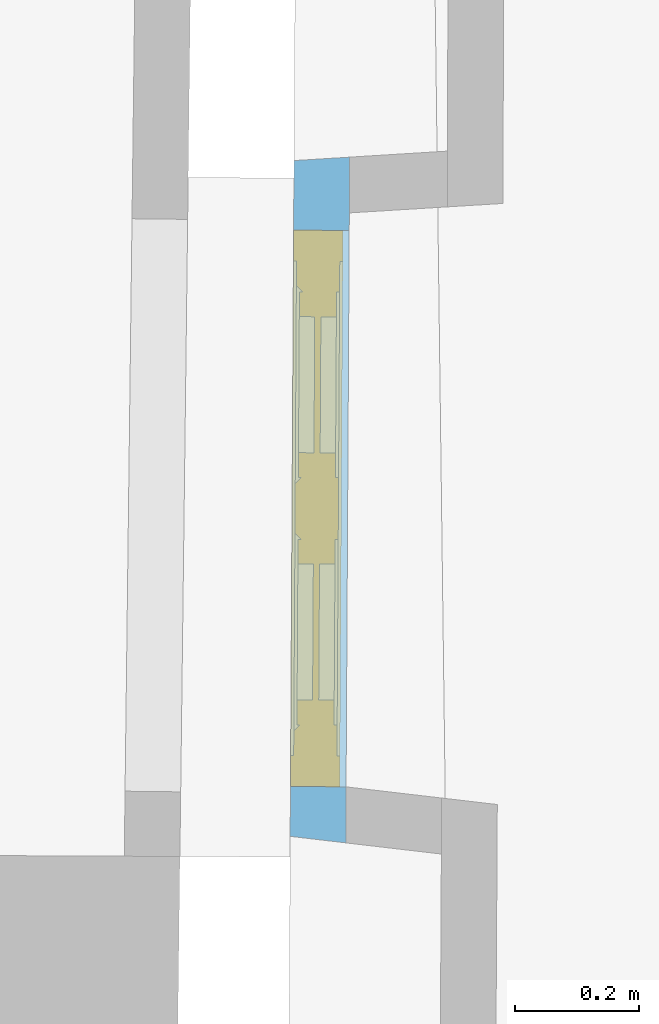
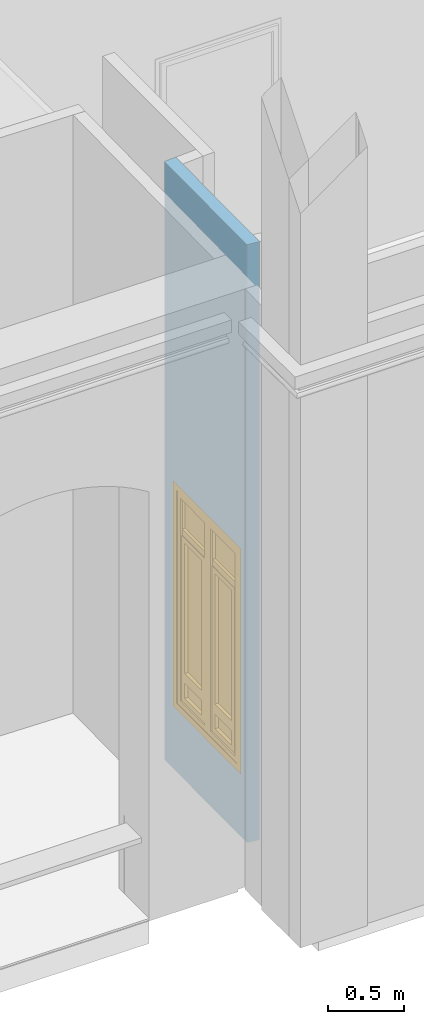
# One storey, part 53 of 97: 1 window, 1 opening, plus 1 element that does not belong to this part.
"""IFC2X3 building model written with IfcOpenShell, lengths in centimetres."""

import ifcopenshell
import ifcopenshell.guid

model = None  # the IFC model being written
_history = None  # IfcOwnerHistory: only IFC2X3 demands one
_inside = {}  # id of a spatial element -> (the spatial element, [elements in it])
_under = {}  # id of a project, library or spatial element -> (it, [spatial elements below it])
_declared = {}  # id of a project -> (the project, [libraries it declares])
_typed = {}  # id of a type object -> (the type object, [elements of that type])
_made_of = {}  # id of a material, layer set ... -> (it, [elements and type objects made of it])


def new_model(schema):
    """Start an empty IFC model of exactly this schema.

    Asked for "IFC4X3", IfcOpenShell would pick the latest addendum, in which some entities
    have other attributes; the version numbers below select the first issue.
    IFC2X3 requires an IfcOwnerHistory on every rooted entity: one is made here for all.
    """
    global model, _history
    if schema == "IFC4X3":
        model = ifcopenshell.file(schema_version=(4, 3, 0, 0))
    else:
        model = ifcopenshell.file(schema=schema)
    _inside.clear()
    _under.clear()
    _declared.clear()
    _typed.clear()
    _made_of.clear()
    _history = None
    if model.schema == "IFC2X3":
        org = make("IfcOrganization", Name="unknown")
        user = make(
            "IfcPersonAndOrganization",
            ThePerson=make("IfcPerson", FamilyName="unknown"),
            TheOrganization=org,
        )
        app = make(
            "IfcApplication",
            ApplicationDeveloper=org,
            Version="unknown",
            ApplicationFullName="unknown",
            ApplicationIdentifier="unknown",
        )
        _history = make(
            "IfcOwnerHistory",
            OwningUser=user,
            OwningApplication=app,
            ChangeAction="ADDED",
            CreationDate=0,
        )
    return model


def make(cls, **values):
    """One entity of the class cls with the attributes given. An attribute that is None is left unset."""
    return model.create_entity(
        cls, **{name: value for name, value in values.items() if value is not None}
    )


def entity(cls, *values):
    """Any entity or typed value of the class cls, its attributes in the order of the schema. None: left unset."""
    e = model.create_entity(cls)
    for i, value in enumerate(values):
        if value is not None:
            e[i] = value
    return e


def rooted(cls, **values):
    """An entity with a GlobalId (a new one), such as an element, a storey or a relation."""
    return make(cls, GlobalId=ifcopenshell.guid.new(), OwnerHistory=_history, **values)


def si_unit(unit_type, name, prefix=None):
    """IfcSIUnit, for example si_unit("LENGTHUNIT", "METRE", prefix="MILLI")."""
    return make("IfcSIUnit", UnitType=unit_type, Prefix=prefix, Name=name)


def converted_unit(unit_type, name, factor, base, dimensions=None, offset=None):
    """IfcConversionBasedUnit, such as the inch: factor (a typed value) times the base unit."""
    return make(
        "IfcConversionBasedUnit"
        if offset is None
        else "IfcConversionBasedUnitWithOffset",
        ConversionOffset=offset,
        Dimensions=None
        if dimensions is None
        else entity("IfcDimensionalExponents", *dimensions),
        UnitType=unit_type,
        Name=name,
        ConversionFactor=make(
            "IfcMeasureWithUnit", ValueComponent=factor, UnitComponent=base
        ),
    )


def assignment(units):
    """IfcUnitAssignment: the units of a project."""
    return None if units is None else make("IfcUnitAssignment", Units=units)


def point(xyz):
    """IfcCartesianPoint."""
    return None if xyz is None else make("IfcCartesianPoint", Coordinates=xyz)


def direction(xyz):
    """IfcDirection."""
    return None if xyz is None else make("IfcDirection", DirectionRatios=xyz)


def frame(location, z_axis=None, x_axis=None):
    """IfcAxis2Placement3D, a coordinate frame: its origin and axes. An axis left out is left unset."""
    return make(
        "IfcAxis2Placement3D",
        Location=point(location),
        Axis=direction(z_axis),
        RefDirection=direction(x_axis),
    )


def origin():
    """The frame at (0, 0, 0) with its axes left unset."""
    return frame((0.0, 0.0, 0.0))


def origin_with_axes():
    """The frame at (0, 0, 0) with the z axis (0, 0, 1) and the x axis (1, 0, 0) written out."""
    return frame((0.0, 0.0, 0.0), z_axis=(0.0, 0.0, 1.0), x_axis=(1.0, 0.0, 0.0))


def place(relative_to, where):
    """IfcLocalPlacement: puts the frame where relative to a parent placement (None: the world)."""
    return make(
        "IfcLocalPlacement", PlacementRelTo=relative_to, RelativePlacement=where
    )


def context(
    kind, dimensions, precision=None, world=None, true_north=None, identifier=None
):
    """IfcGeometricRepresentationContext, for example the 3D "Model" context."""
    return make(
        "IfcGeometricRepresentationContext",
        ContextIdentifier=identifier,
        ContextType=kind,
        CoordinateSpaceDimension=dimensions,
        Precision=precision,
        WorldCoordinateSystem=world,
        TrueNorth=true_north,
    )


def subcontext(parent, identifier, kind, view, scale=None):
    """IfcGeometricRepresentationSubContext, for example "Body" below "Model"."""
    return make(
        "IfcGeometricRepresentationSubContext",
        ContextIdentifier=identifier,
        ContextType=kind,
        ParentContext=parent,
        TargetScale=scale,
        TargetView=view,
    )


def project(units=None, contexts=None):
    """IfcProject with its units and contexts."""
    return rooted(
        "IfcProject",
        Name="project",
        RepresentationContexts=contexts,
        UnitsInContext=assignment(units),
    )


def spatial(cls, under=None, at=None, **own):
    """A site, building, storey or space (cls), placed at a placement, below another one or the project."""
    s = rooted(cls, ObjectPlacement=at, **own)
    if under is not None:
        _under.setdefault(under.id(), (under, []))[1].append(s)
    return s


def polyline(points):
    """IfcPolyline through the points."""
    return make("IfcPolyline", Points=[point(p) for p in points])


def outline(outer, holes=None, kind="AREA"):
    """IfcArbitraryClosedProfileDef: a profile drawn as a closed curve; with holes, ...WithVoids."""
    if holes is None:
        return make("IfcArbitraryClosedProfileDef", ProfileType=kind, OuterCurve=outer)
    return make(
        "IfcArbitraryProfileDefWithVoids",
        ProfileType=kind,
        OuterCurve=outer,
        InnerCurves=holes,
    )


def extrude(swept, where, along, depth):
    """IfcExtrudedAreaSolid: the profile swept, set in the frame where, extruded along a direction by depth."""
    return make(
        "IfcExtrudedAreaSolid",
        SweptArea=swept,
        Position=where,
        ExtrudedDirection=direction(along),
        Depth=depth,
    )


def faces_of(points, faces, orient=None, outer=None):
    """IfcFace entities. A face is a list of loops; a loop is a list of indices into points, from 0.

    orient and outer hold one flag for each loop. By default every Orientation is true, the
    first loop of a face is its IfcFaceOuterBound and the others are IfcFaceBound.
    """
    made = []
    for i, loops in enumerate(faces):
        bounds = []
        for j, loop in enumerate(loops):
            is_outer = j == 0 if outer is None else outer[i][j]
            bounds.append(
                make(
                    "IfcFaceOuterBound" if is_outer else "IfcFaceBound",
                    Bound=make("IfcPolyLoop", Polygon=[points[k] for k in loop]),
                    Orientation=True if orient is None else orient[i][j],
                )
            )
        made.append(make("IfcFace", Bounds=bounds))
    return made


def faceted_brep(points, faces, orient=None, outer=None, voids=None):
    """IfcFacetedBrep: a solid bounded by flat faces; with voids (closed shells), ...WithVoids."""
    shared = [point(p) for p in points]
    hull = make("IfcClosedShell", CfsFaces=faces_of(shared, faces, orient, outer))
    if voids is None:
        return make("IfcFacetedBrep", Outer=hull)
    return make(
        "IfcFacetedBrepWithVoids",
        Outer=hull,
        Voids=[
            make(cls, CfsFaces=faces_of(shared, fs, o, b)) for cls, fs, o, b in voids
        ],
    )


def shape(context_of_items, identifier, shape_type, items):
    """IfcShapeRepresentation: the items that make up one representation, for example the "Body"."""
    return make(
        "IfcShapeRepresentation",
        ContextOfItems=context_of_items,
        RepresentationIdentifier=identifier,
        RepresentationType=shape_type,
        Items=items,
    )


def source(mapping_origin, context_of_items, identifier, shape_type, items):
    """IfcRepresentationMap: a shape defined once, which mapped items show again and again."""
    return make(
        "IfcRepresentationMap",
        MappingOrigin=mapping_origin,
        MappedRepresentation=shape(context_of_items, identifier, shape_type, items),
    )


def transform(
    local_origin,
    x_axis=None,
    y_axis=None,
    z_axis=None,
    scale=None,
    scale2=None,
    scale3=None,
    uniform=True,
):
    """IfcCartesianTransformationOperator3D, or its non-uniform kind. x_axis, y_axis, z_axis: its Axis1, 2, 3."""
    if uniform:
        return make(
            "IfcCartesianTransformationOperator3D",
            Axis1=direction(x_axis),
            Axis2=direction(y_axis),
            LocalOrigin=point(local_origin),
            Scale=scale,
            Axis3=direction(z_axis),
        )
    return make(
        "IfcCartesianTransformationOperator3DnonUniform",
        Axis1=direction(x_axis),
        Axis2=direction(y_axis),
        LocalOrigin=point(local_origin),
        Scale=scale,
        Axis3=direction(z_axis),
        Scale2=scale2,
        Scale3=scale3,
    )


def mapped(mapping_source, mapping_target):
    """IfcMappedItem: shows the shape of a source again, moved by a transform."""
    return make(
        "IfcMappedItem", MappingSource=mapping_source, MappingTarget=mapping_target
    )


def material(Name=None, Category=None):
    """IfcMaterial."""
    return make("IfcMaterial", Name=Name, Category=Category)


def material_list(materials):
    """IfcMaterialList."""
    return make("IfcMaterialList", Materials=materials)


def layer(
    of_material, thickness, ventilated=None, Name=None, Category=None, Priority=None
):
    """IfcMaterialLayer: one layer of a wall or slab, of a material (None: an air gap)."""
    return make(
        "IfcMaterialLayer",
        Material=of_material,
        LayerThickness=thickness,
        IsVentilated=ventilated,
        Name=Name,
        Category=Category,
        Priority=Priority,
    )


def layer_set(layers, Name=None):
    """IfcMaterialLayerSet."""
    return make("IfcMaterialLayerSet", MaterialLayers=layers, LayerSetName=Name)


def layer_usage(for_layer_set, set_direction, sense, offset, extent=None):
    """IfcMaterialLayerSetUsage: how a layer set lies in its element."""
    return make(
        "IfcMaterialLayerSetUsage",
        ForLayerSet=for_layer_set,
        LayerSetDirection=set_direction,
        DirectionSense=sense,
        OffsetFromReferenceLine=offset,
        ReferenceExtent=extent,
    )


def made_of(thing, what):
    """Note that an element or type object is made of a material, layer set ...; save() writes the relation."""
    if what is not None:
        _made_of.setdefault(what.id(), (what, []))[1].append(thing)
    return thing


def type_object(cls, material=None, **own):
    """A type object (cls), such as IfcWallType, which elements share."""
    return made_of(rooted(cls, **own), material)


def element(
    cls,
    number,
    at=None,
    inside=None,
    cuts=None,
    type_object=None,
    material=None,
    context=None,
    identifier="Body",
    shape_type=None,
    held_by="IfcProductDefinitionShape",
    body=None,
    shapes=None,
    **own,
):
    """One element of the class cls, such as IfcWall. Its Tag is "e" and its number.

    at: its placement. inside: the storey or other place that contains it. cuts: it is an
    opening in that element (IfcRelVoidsElement). A single representation is given by context,
    identifier, shape_type and body (its items); several are given by shapes. held_by: the class
    of the entity that holds the representations. save() writes the other relations.
    """
    e = rooted(cls, Tag="e%d" % number, ObjectPlacement=at, **own)
    if body is not None:
        shapes = [shape(context, identifier, shape_type, body)]
    if shapes is not None:
        e.Representation = make(held_by, Representations=shapes)
    if inside is not None:
        _inside.setdefault(inside.id(), (inside, []))[1].append(e)
    if cuts is not None:
        rooted(
            "IfcRelVoidsElement", RelatingBuildingElement=cuts, RelatedOpeningElement=e
        )
    if type_object is not None:
        _typed.setdefault(type_object.id(), (type_object, []))[1].append(e)
    return made_of(e, material)


def fill(opening, filler):
    """IfcRelFillsElement: the door or window that sits in an opening."""
    return rooted(
        "IfcRelFillsElement",
        RelatingOpeningElement=opening,
        RelatedBuildingElement=filler,
    )


def aggregate(whole, parts):
    """IfcRelAggregates: a whole, such as a stair, and the parts it consists of."""
    return rooted("IfcRelAggregates", RelatingObject=whole, RelatedObjects=parts)


def save(model, path):
    """Write the relations noted so far, then the file.

    IfcRelAggregates (storeys below a building ...), IfcRelContainedInSpatialStructure (elements
    in a storey), IfcRelDefinesByType, IfcRelAssociatesMaterial and IfcRelDeclares: one each for
    every whole, place, type object, material and project.
    """
    for whole, parts in _under.values():
        aggregate(whole, parts)
    for where, things in _inside.values():
        rooted(
            "IfcRelContainedInSpatialStructure",
            RelatedElements=things,
            RelatingStructure=where,
        )
    for kind, things in _typed.values():
        rooted("IfcRelDefinesByType", RelatedObjects=things, RelatingType=kind)
    for what, things in _made_of.values():
        rooted("IfcRelAssociatesMaterial", RelatedObjects=things, RelatingMaterial=what)
    for by, libraries in _declared.values():
        rooted("IfcRelDeclares", RelatingContext=by, RelatedDefinitions=libraries)
    model.write(path)


model = new_model("IFC2X3")

# Units and contexts
model_context = context("Model", 3, precision=0.0001, world=origin(), true_north=direction((0.225632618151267, 0.974212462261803, 0.0)))
body_context = subcontext(model_context, "Body", "Model", "MODEL_VIEW")
footprint_context = subcontext(model_context, "FootPrint", "Model", "MODEL_VIEW")
profile_context = subcontext(model_context, "Profile", "Model", "MODEL_VIEW")
ifc_project = project(units=[si_unit("LENGTHUNIT", "METRE", prefix="CENTI"), si_unit("AREAUNIT", "SQUARE_METRE", prefix="CENTI"), si_unit("VOLUMEUNIT", "CUBIC_METRE", prefix="CENTI"), converted_unit("PLANEANGLEUNIT", "DEGREE", entity("IfcRatioMeasure", 0.0174532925), si_unit("PLANEANGLEUNIT", "RADIAN"), dimensions=[0, 0, 0, 0, 0, 0, 0])], contexts=[model_context])

# Site, building, storey
site_placement = place(None, origin_with_axes())
site = spatial("IfcSite", under=ifc_project, at=site_placement, Name="Default Site", CompositionType="ELEMENT")
building_placement = place(site_placement, origin_with_axes())
building = spatial("IfcBuilding", under=site, at=building_placement, Name="Default Building", CompositionType="ELEMENT")
storey_placement = place(building_placement, origin_with_axes())
storey = spatial("IfcBuildingStorey", under=building, at=storey_placement, Name="Rez-de-chaussée", CompositionType="ELEMENT", Elevation=0.0)

# Wall, opening, window
ifc_material_1 = material(Name="<aucun>")
ifc_layer = layer(ifc_material_1, 9.0)
ifc_layer_set = layer_set([ifc_layer], Name="default")
ifc_layer_usage = layer_usage(ifc_layer_set, "AXIS2", "POSITIVE", -4.5)
wall_type = type_object("IfcWallType", Name="default 90", PredefinedType="NOTDEFINED", material=ifc_layer_set)
wall_placement = place(storey_placement, frame((271.748422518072, -926.947135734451, 0.0128503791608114), z_axis=(0.0, 0.0, 1.0), x_axis=(0.00566162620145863, 0.999983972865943, 0.0)))
wall = element("IfcWallStandardCase", 1, at=wall_placement, inside=storey, type_object=wall_type, material=ifc_layer_usage, Name="Enveloppe 3133", context=body_context, shape_type="SweptSolid", body=[
    extrude(outline(polyline([(-4.02747527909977, 4.49999999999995), (-5.02796382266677, -4.50000000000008), (105.876194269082, -4.49999999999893), (105.270244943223, 4.50000000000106), (-4.02747527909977, 4.49999999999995)])), frame((0.0, 0.0, 2.71050543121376e-18), z_axis=(0.0, 0.0, 1.0), x_axis=(1.0, 0.0, 0.0)), (0.0, 0.0, 1.0), 477.795358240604),
])
opening_placement = place(wall_placement, frame((4.02747527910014, 0.0, 49.9871496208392), z_axis=(0.0, 0.0, 1.0), x_axis=(-1.0, -1.00162933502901e-14, 0.0)))
cartesian_point_1 = entity("IfcCartesianPoint", [0.0, -4.44089209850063e-14, 180.0])
cartesian_point_2 = entity("IfcCartesianPoint", [-90.0, -4.49999999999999])
opening = element("IfcOpeningElement", 2, at=opening_placement, cuts=wall, Name="4294966456_11", ObjectType="Opening", shapes=[
    shape(body_context, "Body", "SweptSolid", [extrude(outline(polyline([(1.77635683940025e-13, 180.0), (1.77635683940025e-13, 0.0), (90.0, 0.0), (90.0, 180.0), (1.77635683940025e-13, 180.0)])), frame((0.0, -14.5, 0.0), z_axis=(0.0, 1.0, 0.0), x_axis=(-1.0, 0.0, 0.0)), (0.0, 0.0, 1.0), 29.0)]),
    shape(profile_context, "Profile", "GeometricCurveSet", [entity("IfcGeometricCurveSet", [entity("IfcPolyline", [cartesian_point_1, entity("IfcCartesianPoint", [0.0, -4.44089209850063e-14, 0.0]), entity("IfcCartesianPoint", [-89.9999999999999, -4.44089209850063e-14, 0.0]), entity("IfcCartesianPoint", [-89.9999999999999, -4.44089209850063e-14, 180.0]), cartesian_point_1])])]),
    shape(footprint_context, "FootPrint", "GeometricCurveSet", [entity("IfcGeometricCurveSet", [entity("IfcPolyline", [cartesian_point_2, entity("IfcCartesianPoint", [-1.77635683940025e-13, -4.50000000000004]), entity("IfcCartesianPoint", [0.0, 4.4999999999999]), entity("IfcCartesianPoint", [-90.0, 4.49999999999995]), cartesian_point_2])])]),
])
ifc_material_2 = material(Name="Transparent")
ifc_material_3 = material(Name="Noyer 01")
ifc_material_4 = material(Name="Blanc trafic")
ifc_material_5 = material(Name="Aluminium satiné")
ifc_material_list = material_list([ifc_material_2, ifc_material_3, ifc_material_4, ifc_material_5])
window_style = type_object("IfcWindowStyle", Name="FN[R] 2VB[2V] MM", ConstructionType="NOTDEFINED", OperationType="NOTDEFINED", ParameterTakesPrecedence=False, Sizeable=False, material=ifc_material_list)
shared_shape = source(origin_with_axes(), body_context, "Body", "Brep", [
    faceted_brep([(-40.0000005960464, 175.0, -3.99999991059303), (-40.0000005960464, 175.0, 3.99999991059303), (-40.0000005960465, 5.00000007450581, 3.99999991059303), (-40.0000005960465, 5.00000007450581, -3.99999991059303), (-44.9999988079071, 179.999995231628, 3.99999991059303), (-44.9999988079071, 0.0, 3.99999991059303), (-40.0000005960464, 5.00000007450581, 3.99999991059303), (-44.9999988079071, 179.999995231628, -3.99999991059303), (-44.9999988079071, 6.84775123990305e-31, -3.99999991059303), (-44.9999988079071, 6.84775123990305e-31, 3.99999991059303), (-40.0000005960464, 5.00000007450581, -3.99999991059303), (-44.9999988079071, 0.0, -3.99999991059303), (40.0000005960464, 5.0000000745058, 3.99999991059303), (40.0000005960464, 5.0000000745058, -3.99999991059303), (44.9999988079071, 0.0, 3.99999991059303), (40.0000005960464, 5.00000007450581, 3.99999991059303), (44.9999988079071, 0.0, -3.99999991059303), (40.0000005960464, 5.00000007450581, -3.99999991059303), (40.0000005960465, 175.0, 3.99999991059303), (40.0000005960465, 175.0, -3.99999991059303), (44.9999988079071, 179.999995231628, 3.99999991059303), (40.0000005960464, 175.0, 3.99999991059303), (44.9999988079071, 179.999995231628, -3.99999991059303), (40.0000005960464, 175.0, -3.99999991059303)], [[[0, 1, 2, 3]], [[1, 4, 5, 6]], [[4, 7, 8, 9]], [[7, 0, 10, 11]], [[10, 6, 12, 13]], [[6, 5, 14, 15]], [[5, 11, 16, 14]], [[11, 10, 17, 16]], [[17, 15, 18, 19]], [[15, 14, 20, 21]], [[14, 16, 22, 20]], [[16, 17, 23, 22]], [[23, 21, 1, 0]], [[21, 20, 4, 1]], [[20, 22, 7, 4]], [[22, 23, 0, 7]]]),
    faceted_brep([(-36.0000014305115, 171.000003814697, -3.50000001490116), (-35.0000004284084, 170.000004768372, -2.49999901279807), (-35.0000004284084, 10.0000001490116, -2.49999901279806), (-36.0000014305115, 9.00000035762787, -3.50000001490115), (-34.9999994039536, 170.000004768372, -2.5000000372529), (-34.9999994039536, 170.000004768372, 3.50000001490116), (-34.9999994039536, 10.0000001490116, 3.50000001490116), (-34.9999994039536, 10.0000001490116, -2.5000000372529), (-40.0000005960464, 175.0, 3.50000001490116), (-40.0000005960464, 5.00000007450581, 3.50000001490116), (-40.0000005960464, 175.0, -3.50000001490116), (-40.0000005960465, 5.00000007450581, -3.50000001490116), (-40.0000005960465, 5.00000007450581, 3.50000001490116), (-36.0000014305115, 9.00000035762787, -3.50000001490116), (-40.0000005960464, 5.00000007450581, -3.50000001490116), (-34.9999994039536, 10.0000002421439, -2.50000013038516), (-5.00000007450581, 10.0000002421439, -2.50000013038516), (-3.99999991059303, 9.00000035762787, -3.50000001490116), (-5.00000007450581, 10.0000001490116, 3.50000001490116), (-5.00000007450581, 10.0000001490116, -2.5000000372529), (5.55111512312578e-15, 5.00000007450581, 3.50000001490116), (5.55111512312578e-15, 5.00000007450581, -3.50000001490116), (-4.99999998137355, 10.0000001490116, -2.49999994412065), (-4.99999998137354, 170.000004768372, -2.49999994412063), (-3.99999991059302, 171.000003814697, -3.50000001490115), (-5.00000007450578, 170.000004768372, 3.50000001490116), (-5.00000007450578, 170.000004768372, -2.5000000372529), (1.66533453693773e-14, 175.0, 3.50000001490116), (-5.00000007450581, 170.000004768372, 3.50000001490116), (1.66533458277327e-14, 175.0, -3.50000001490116), (1.66533458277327e-14, 175.0, 3.50000001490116), (-3.99999991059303, 171.000003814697, -3.50000001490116), (1.66533453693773e-14, 175.0, -3.50000001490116), (-5.00000007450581, 170.00000430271, -2.50000050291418), (-34.9999994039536, 170.00000430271, -2.50000050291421), (-36.0000014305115, 171.000003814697, -3.50000001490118), (-5.00000007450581, 170.000004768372, -2.5000000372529)], [[[0, 1, 2, 3]], [[4, 5, 6, 7]], [[5, 8, 9, 6]], [[8, 10, 11, 12]], [[10, 0, 13, 14]], [[13, 15, 16, 17]], [[7, 6, 18, 19]], [[6, 9, 20, 18]], [[9, 14, 21, 20]], [[14, 13, 17, 21]], [[17, 22, 23, 24]], [[19, 18, 25, 26]], [[18, 20, 27, 28]], [[20, 21, 29, 30]], [[21, 17, 31, 32]], [[31, 33, 34, 35]], [[36, 28, 5, 4]], [[28, 27, 8, 5]], [[27, 32, 10, 8]], [[32, 31, 0, 10]]]),
    faceted_brep([(-5.00000007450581, 170.000004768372, -0.499999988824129), (-5.00000007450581, 146.749997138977, -0.499999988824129), (-34.9999994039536, 146.749997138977, -0.499999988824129), (-34.9999994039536, 170.000004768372, -0.499999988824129), (-34.9999994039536, 170.000004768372, 0.499999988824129), (-34.9999994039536, 146.749997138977, 0.499999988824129), (-5.00000007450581, 146.749997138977, 0.499999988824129), (-5.00000007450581, 170.000004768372, 0.499999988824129)], [[[0, 1, 2, 3]], [[4, 5, 6, 7]], [[3, 2, 5, 4]], [[2, 1, 6, 5]], [[1, 0, 7, 6]], [[0, 3, 4, 7]]]),
    faceted_brep([(-5.00000007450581, 141.750001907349, 2.5000000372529), (-5.00000007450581, 141.750001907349, -2.5000000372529), (-5.00000007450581, 146.749997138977, -2.5000000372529), (-5.00000007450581, 146.749997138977, 2.5000000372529), (-34.9999994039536, 146.749997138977, 2.5000000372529), (-34.9999994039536, 146.749997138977, -2.5000000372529), (-34.9999994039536, 141.750001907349, -2.5000000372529), (-34.9999994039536, 141.750001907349, 2.5000000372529)], [[[0, 1, 2, 3]], [[4, 5, 6, 7]], [[3, 2, 5, 4]], [[2, 1, 6, 5]], [[1, 0, 7, 6]], [[0, 3, 4, 7]]]),
    faceted_brep([(-31.0000002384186, 137.750005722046, -2.99999993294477), (-31.0000002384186, 137.750005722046, 2.99999993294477), (-31.0000002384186, 33.7624996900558, 2.99999993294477), (-31.0000002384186, 33.7624996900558, -2.99999993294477), (-34.9999994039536, 141.750001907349, 2.99999993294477), (-34.9999994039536, 29.7625005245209, 2.99999993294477), (-34.9999994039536, 141.750001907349, -2.99999993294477), (-34.9999994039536, 29.7625005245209, -2.99999993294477), (-9.00000035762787, 33.7624996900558, 2.99999993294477), (-9.00000035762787, 33.7624996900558, -2.99999993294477), (-5.00000007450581, 29.7625005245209, 2.99999993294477), (-5.00000007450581, 29.7625005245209, -2.99999993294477), (-9.00000035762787, 137.750005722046, 2.99999993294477), (-9.00000035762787, 137.750005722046, -2.99999993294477), (-5.00000007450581, 141.750001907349, 2.99999993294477), (-5.0000000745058, 141.750001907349, -2.99999993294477), (-5.0000000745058, 141.750001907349, 2.99999993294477), (-5.00000007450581, 141.750001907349, -2.99999993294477)], [[[0, 1, 2, 3]], [[1, 4, 5, 2]], [[4, 6, 7, 5]], [[6, 0, 3, 7]], [[3, 2, 8, 9]], [[2, 5, 10, 8]], [[5, 7, 11, 10]], [[7, 3, 9, 11]], [[9, 8, 12, 13]], [[8, 10, 14, 12]], [[10, 11, 15, 16]], [[11, 9, 13, 17]], [[13, 12, 1, 0]], [[12, 14, 4, 1]], [[14, 17, 6, 4]], [[17, 13, 0, 6]]]),
    faceted_brep([(-9.00000035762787, 137.750005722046, -0.499999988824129), (-9.00000035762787, 33.7624996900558, -0.499999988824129), (-31.0000002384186, 33.7624996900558, -0.499999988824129), (-31.0000002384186, 137.750005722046, -0.499999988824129), (-31.0000002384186, 137.750005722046, 0.499999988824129), (-31.0000002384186, 33.7624996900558, 0.499999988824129), (-9.00000035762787, 33.7624996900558, 0.499999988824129), (-9.00000035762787, 137.750005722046, 0.499999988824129), (-9.00000035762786, 137.750005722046, -0.499999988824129), (-9.00000035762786, 137.750005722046, 0.499999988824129)], [[[0, 1, 2, 3]], [[4, 5, 6, 7]], [[3, 2, 5, 4]], [[2, 1, 6, 5]], [[1, 8, 9, 6]], [[0, 3, 4, 7]]]),
    faceted_brep([(-31.0000002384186, 25.7625013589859, -2.99999993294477), (-31.0000002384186, 25.7625013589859, 2.99999993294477), (-31.0000002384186, 14.0000000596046, 2.99999993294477), (-31.0000002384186, 14.0000000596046, -2.99999993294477), (-34.9999994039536, 29.7625005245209, 2.99999993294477), (-34.9999994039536, 10.0000001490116, 2.99999993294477), (-34.9999994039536, 29.7625005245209, -2.99999993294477), (-34.9999994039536, 10.0000001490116, -2.99999993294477), (-9.00000035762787, 14.0000000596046, 2.99999993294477), (-9.00000035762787, 14.0000000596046, -2.99999993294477), (-5.00000007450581, 10.0000001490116, 2.99999993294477), (-5.00000007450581, 10.0000001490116, -2.99999993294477), (-9.00000035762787, 25.7625013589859, 2.99999993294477), (-9.00000035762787, 25.7625013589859, -2.99999993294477), (-5.00000007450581, 29.7625005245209, 2.99999993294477), (-5.00000007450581, 29.7625005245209, -2.99999993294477)], [[[0, 1, 2, 3]], [[1, 4, 5, 2]], [[4, 6, 7, 5]], [[6, 0, 3, 7]], [[3, 2, 8, 9]], [[2, 5, 10, 8]], [[5, 7, 11, 10]], [[7, 3, 9, 11]], [[9, 8, 12, 13]], [[8, 10, 14, 12]], [[10, 11, 15, 14]], [[11, 9, 13, 15]], [[13, 12, 1, 0]], [[12, 14, 4, 1]], [[14, 15, 6, 4]], [[15, 13, 0, 6]]]),
    faceted_brep([(-9.00000035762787, 25.7625013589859, -0.499999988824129), (-9.00000035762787, 14.0000000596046, -0.499999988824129), (-31.0000002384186, 14.0000000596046, -0.499999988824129), (-31.0000002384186, 25.7625013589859, -0.499999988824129), (-31.0000002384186, 25.7625013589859, 0.499999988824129), (-31.0000002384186, 14.0000000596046, 0.499999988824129), (-9.00000035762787, 14.0000000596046, 0.499999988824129), (-9.00000035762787, 25.7625013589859, 0.499999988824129)], [[[0, 1, 2, 3]], [[4, 5, 6, 7]], [[3, 2, 5, 4]], [[2, 1, 6, 5]], [[1, 0, 7, 6]], [[0, 3, 4, 7]]]),
    faceted_brep([(3.99999991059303, 171.000003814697, -3.50000001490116), (4.99999998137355, 170.000004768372, -2.49999994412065), (4.99999998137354, 10.0000001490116, -2.49999994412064), (3.99999991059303, 9.00000035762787, -3.50000001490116), (5.00000007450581, 170.000004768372, -2.5000000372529), (5.00000007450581, 170.000004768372, 3.50000001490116), (5.0000000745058, 10.0000001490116, 3.50000001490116), (5.0000000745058, 10.0000001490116, -2.5000000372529), (1.66533453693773e-14, 175.0, 3.50000001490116), (5.55111512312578e-15, 5.00000007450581, 3.50000001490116), (5.00000007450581, 10.0000001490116, 3.50000001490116), (1.66533453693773e-14, 175.0, -3.50000001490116), (5.55111466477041e-15, 5.00000007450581, -3.50000001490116), (5.55111466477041e-15, 5.00000007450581, 3.50000001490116), (5.55111512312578e-15, 5.00000007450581, -3.50000001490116), (5.00000007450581, 10.0000002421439, -2.50000013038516), (34.9999994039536, 10.0000002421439, -2.50000013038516), (36.0000014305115, 9.00000035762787, -3.50000001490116), (5.00000007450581, 10.0000001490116, -2.5000000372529), (34.9999994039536, 10.0000001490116, 3.50000001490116), (34.9999994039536, 10.0000001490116, -2.5000000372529), (40.0000005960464, 5.00000007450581, 3.50000001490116), (40.0000005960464, 5.00000007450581, -3.50000001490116), (35.0000004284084, 10.0000001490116, -2.49999901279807), (35.0000004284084, 170.000004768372, -2.49999901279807), (36.0000014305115, 171.000003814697, -3.50000001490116), (34.9999994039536, 170.000004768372, 3.50000001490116), (34.9999994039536, 170.000004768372, -2.5000000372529), (40.0000005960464, 175.0, 3.50000001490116), (40.0000005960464, 175.0, -3.50000001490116), (34.9999994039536, 170.00000430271, -2.5000005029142), (5.00000007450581, 170.00000430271, -2.5000005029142), (3.99999991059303, 171.000003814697, -3.50000001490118)], [[[0, 1, 2, 3]], [[4, 5, 6, 7]], [[5, 8, 9, 10]], [[8, 11, 12, 13]], [[11, 0, 3, 14]], [[3, 15, 16, 17]], [[18, 10, 19, 20]], [[10, 9, 21, 19]], [[9, 14, 22, 21]], [[14, 3, 17, 22]], [[17, 23, 24, 25]], [[20, 19, 26, 27]], [[19, 21, 28, 26]], [[21, 22, 29, 28]], [[22, 17, 25, 29]], [[25, 30, 31, 32]], [[27, 26, 5, 4]], [[26, 28, 8, 5]], [[28, 29, 11, 8]], [[29, 25, 0, 11]]]),
    faceted_brep([(4.50000017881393, 92.0000016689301, 3.50000001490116), (4.50000017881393, 87.9999995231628, 3.50000001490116), (0.499999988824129, 87.9999995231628, 3.50000001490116), (0.499999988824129, 92.0000016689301, 3.50000001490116), (0.499999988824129, 92.0000016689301, 4.30000014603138), (0.499999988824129, 87.9999995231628, 4.30000014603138), (4.50000017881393, 87.9999995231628, 4.30000014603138), (4.50000017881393, 92.0000016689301, 4.30000014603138)], [[[0, 1, 2, 3]], [[4, 5, 6, 7]], [[3, 2, 5, 4]], [[2, 1, 6, 5]], [[1, 0, 7, 6]], [[0, 3, 4, 7]]]),
    faceted_brep([(3.24999988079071, 90.4999971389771, 4.30000014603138), (3.24999988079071, 89.4999980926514, 4.30000014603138), (1.75000000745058, 89.4999980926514, 4.30000014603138), (1.75000000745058, 90.4999971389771, 4.30000014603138), (1.75000000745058, 90.4999971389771, 8.29999968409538), (1.75000000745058, 89.4999977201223, 7.30000026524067), (3.24999988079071, 89.4999977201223, 7.30000026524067), (3.24999988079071, 90.4999971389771, 8.29999968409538), (1.75000000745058, 89.4999980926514, 7.29999989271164), (3.24999988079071, 89.4999980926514, 7.29999989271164)], [[[0, 1, 2, 3]], [[4, 5, 6, 7]], [[3, 2, 8, 4]], [[2, 1, 9, 8]], [[1, 0, 7, 9]], [[0, 3, 4, 7]]]),
    faceted_brep([(3.24999988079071, 90.4999971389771, 8.29999968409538), (3.24999988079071, 89.4999977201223, 7.30000026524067), (1.75000000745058, 89.4999977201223, 7.30000026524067), (1.75000000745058, 90.4999971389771, 8.29999968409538), (1.75000000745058, 77.4999976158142, 8.29999968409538), (1.75000000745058, 77.4999976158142, 7.29999989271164), (3.24999988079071, 77.4999976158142, 7.29999989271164), (3.24999988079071, 77.4999976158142, 8.29999968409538), (1.75000000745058, 89.4999980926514, 7.29999989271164), (3.24999988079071, 89.4999980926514, 7.29999989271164)], [[[0, 1, 2, 3]], [[4, 5, 6, 7]], [[3, 8, 5, 4]], [[8, 9, 6, 5]], [[9, 0, 7, 6]], [[0, 3, 4, 7]]]),
    faceted_brep([(34.9999994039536, 170.000004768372, -0.499999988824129), (34.9999994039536, 146.749997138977, -0.499999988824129), (5.00000007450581, 146.749997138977, -0.499999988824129), (5.00000007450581, 170.000004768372, -0.499999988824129), (5.00000007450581, 170.000004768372, 0.499999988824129), (5.00000007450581, 146.749997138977, 0.499999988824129), (34.9999994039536, 146.749997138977, 0.499999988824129), (34.9999994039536, 170.000004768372, 0.499999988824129)], [[[0, 1, 2, 3]], [[4, 5, 6, 7]], [[3, 2, 5, 4]], [[2, 1, 6, 5]], [[1, 0, 7, 6]], [[0, 3, 4, 7]]]),
    faceted_brep([(34.9999994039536, 141.750001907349, 2.5000000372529), (34.9999994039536, 141.750001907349, -2.5000000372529), (34.9999994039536, 146.749997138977, -2.5000000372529), (34.9999994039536, 146.749997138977, 2.5000000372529), (5.00000007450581, 146.749997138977, 2.5000000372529), (5.00000007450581, 146.749997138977, -2.5000000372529), (5.00000007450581, 141.750001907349, -2.5000000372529), (5.00000007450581, 141.750001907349, 2.5000000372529)], [[[0, 1, 2, 3]], [[4, 5, 6, 7]], [[3, 2, 5, 4]], [[2, 1, 6, 5]], [[1, 0, 7, 6]], [[0, 3, 4, 7]]]),
    faceted_brep([(9.00000035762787, 137.750005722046, -2.99999993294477), (9.00000035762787, 137.750005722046, 2.99999993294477), (9.00000035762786, 33.7624996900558, 2.99999993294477), (9.00000035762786, 33.7624996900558, -2.99999993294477), (5.00000007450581, 141.750001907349, 2.99999993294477), (5.00000007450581, 29.7625005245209, 2.99999993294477), (9.00000035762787, 33.7624996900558, 2.99999993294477), (5.00000007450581, 141.750001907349, -2.99999993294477), (5.0000000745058, 29.7625005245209, -2.99999993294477), (5.0000000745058, 29.7625005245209, 2.99999993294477), (9.00000035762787, 33.7624996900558, -2.99999993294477), (5.00000007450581, 29.7625005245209, -2.99999993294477), (31.0000002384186, 33.7624996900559, 2.99999993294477), (31.0000002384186, 33.7624996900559, -2.99999993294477), (34.9999994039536, 29.7625005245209, 2.99999993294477), (31.0000002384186, 33.7624996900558, 2.99999993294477), (34.9999994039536, 29.7625005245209, -2.99999993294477), (31.0000002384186, 33.7624996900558, -2.99999993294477), (31.0000002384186, 137.750005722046, 2.99999993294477), (31.0000002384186, 137.750005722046, -2.99999993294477), (34.9999994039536, 141.750001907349, 2.99999993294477), (34.9999994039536, 141.750001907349, -2.99999993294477)], [[[0, 1, 2, 3]], [[1, 4, 5, 6]], [[4, 7, 8, 9]], [[7, 0, 10, 11]], [[10, 6, 12, 13]], [[6, 5, 14, 15]], [[5, 11, 16, 14]], [[11, 10, 17, 16]], [[17, 15, 18, 19]], [[15, 14, 20, 18]], [[14, 16, 21, 20]], [[16, 17, 19, 21]], [[19, 18, 1, 0]], [[18, 20, 4, 1]], [[20, 21, 7, 4]], [[21, 19, 0, 7]]]),
    faceted_brep([(31.0000002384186, 137.750005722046, -0.499999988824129), (31.0000002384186, 33.7624996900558, -0.499999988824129), (9.00000035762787, 33.7624996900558, -0.499999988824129), (9.00000035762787, 137.750005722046, -0.499999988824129), (9.00000035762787, 137.750005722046, 0.499999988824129), (9.00000035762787, 33.7624996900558, 0.499999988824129), (31.0000002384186, 33.7624996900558, 0.499999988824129), (31.0000002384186, 137.750005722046, 0.499999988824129), (9.00000035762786, 33.7624996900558, -0.499999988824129), (9.00000035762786, 33.7624996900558, 0.499999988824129)], [[[0, 1, 2, 3]], [[4, 5, 6, 7]], [[3, 8, 9, 4]], [[2, 1, 6, 5]], [[1, 0, 7, 6]], [[0, 3, 4, 7]]]),
    faceted_brep([(9.00000035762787, 25.7625013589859, -2.99999993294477), (9.00000035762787, 25.7625013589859, 2.99999993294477), (9.00000035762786, 14.0000000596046, 2.99999993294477), (9.00000035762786, 14.0000000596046, -2.99999993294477), (5.00000007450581, 29.7625005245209, 2.99999993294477), (5.00000007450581, 10.0000001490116, 2.99999993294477), (9.00000035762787, 14.0000000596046, 2.99999993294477), (5.00000007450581, 29.7625005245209, -2.99999993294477), (5.0000000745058, 10.0000001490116, -2.99999993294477), (5.0000000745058, 10.0000001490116, 2.99999993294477), (9.00000035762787, 14.0000000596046, -2.99999993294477), (5.00000007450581, 10.0000001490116, -2.99999993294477), (31.0000002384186, 14.0000000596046, 2.99999993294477), (31.0000002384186, 14.0000000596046, -2.99999993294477), (34.9999994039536, 10.0000001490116, 2.99999993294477), (34.9999994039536, 10.0000001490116, -2.99999993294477), (31.0000002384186, 25.7625013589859, 2.99999993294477), (31.0000002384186, 25.7625013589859, -2.99999993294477), (34.9999994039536, 29.7625005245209, 2.99999993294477), (34.9999994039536, 29.7625005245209, -2.99999993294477)], [[[0, 1, 2, 3]], [[1, 4, 5, 6]], [[4, 7, 8, 9]], [[7, 0, 10, 11]], [[10, 6, 12, 13]], [[6, 5, 14, 12]], [[5, 11, 15, 14]], [[11, 10, 13, 15]], [[13, 12, 16, 17]], [[12, 14, 18, 16]], [[14, 15, 19, 18]], [[15, 13, 17, 19]], [[17, 16, 1, 0]], [[16, 18, 4, 1]], [[18, 19, 7, 4]], [[19, 17, 0, 7]]]),
    faceted_brep([(31.0000002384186, 25.7625013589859, -0.499999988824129), (31.0000002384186, 14.0000000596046, -0.499999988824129), (9.00000035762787, 14.0000000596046, -0.499999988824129), (9.00000035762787, 25.7625013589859, -0.499999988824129), (9.00000035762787, 25.7625013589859, 0.499999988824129), (9.00000035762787, 14.0000000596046, 0.499999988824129), (31.0000002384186, 14.0000000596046, 0.499999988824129), (31.0000002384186, 25.7625013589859, 0.499999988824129), (9.00000035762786, 14.0000000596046, -0.499999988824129), (9.00000035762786, 14.0000000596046, 0.499999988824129)], [[[0, 1, 2, 3]], [[4, 5, 6, 7]], [[3, 8, 9, 4]], [[2, 1, 6, 5]], [[1, 0, 7, 6]], [[0, 3, 4, 7]]]),
])
window_placement = place(opening_placement, frame((-89.9999999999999, -4.50000000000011, 7.105427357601e-15), z_axis=(0.0, 0.0, 1.0), x_axis=(1.0, 0.0, 0.0)))
window = element("IfcWindow", 3, at=window_placement, inside=storey, type_object=window_style, material=ifc_material_list, Name="Fenêtre 23816", OverallHeight=180.0, OverallWidth=90.0, context=body_context, shape_type="MappedRepresentation", body=[
    mapped(shared_shape, transform((44.9999999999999, 3.99999999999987, 0.0), x_axis=(-1.0, 0.0, 0.0), y_axis=(0.0, 0.0, 1.0), z_axis=(0.0, 1.0, 0.0), scale=1.0, scale2=1.0, scale3=1.0, uniform=False)),
])
fill(opening, window)

save(model, "model.ifc")
